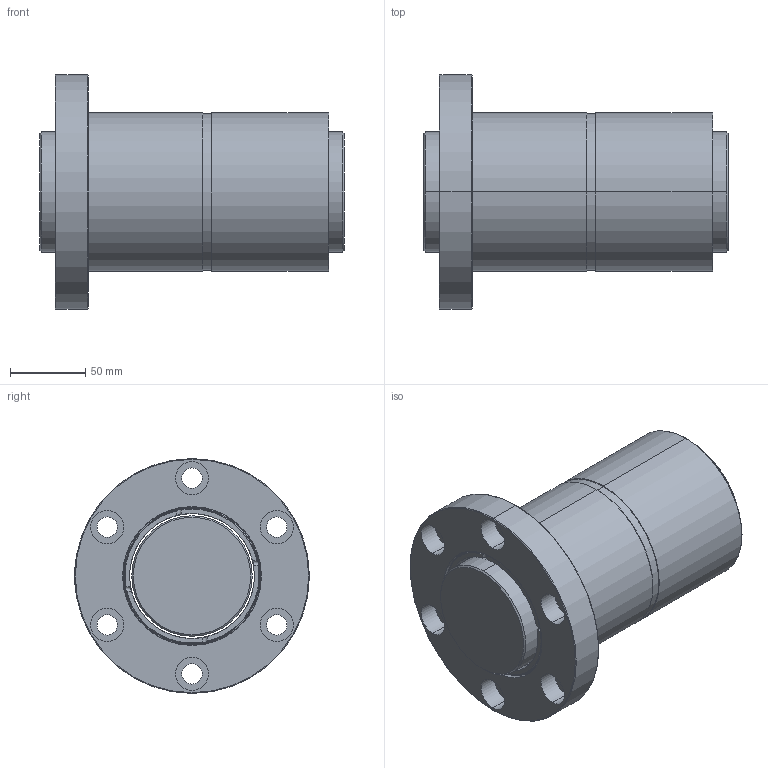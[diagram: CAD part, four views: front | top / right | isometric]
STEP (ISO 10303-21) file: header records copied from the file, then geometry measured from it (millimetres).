
FILE_DESCRIPTION (( 'STEP AP203' ), '1' );
FILE_NAME ('DFZR08010T4N-C.STEP', '2020-06-18T01:27:02', ( '' ), ( '' ), 'SwSTEP 2.0', 'SolidWorks 2013', '' );
FILE_SCHEMA (( 'CONFIG_CONTROL_DESIGN' ));
Length unit declared in the file: millimetre
Products named in the file (1): DFZR08010T4N-C
Bounding box: 202 x 156 x 156 mm (x, y, z)
Volume: 1783220.3 mm3; surface area: 216228 mm2
Topology: 2 solids, 2 shells, 126 faces, 302 edges, 194 vertices
Faces by surface type: cylinder 68, plane 30, torus 24, cone 4
Entity records: 4299 total; most frequent: CARTESIAN_POINT 1157, DIRECTION 698, ORIENTED_EDGE 604, AXIS2_PLACEMENT_3D 307, EDGE_CURVE 302, VERTEX_POINT 194, CIRCLE 180, EDGE_LOOP 158
